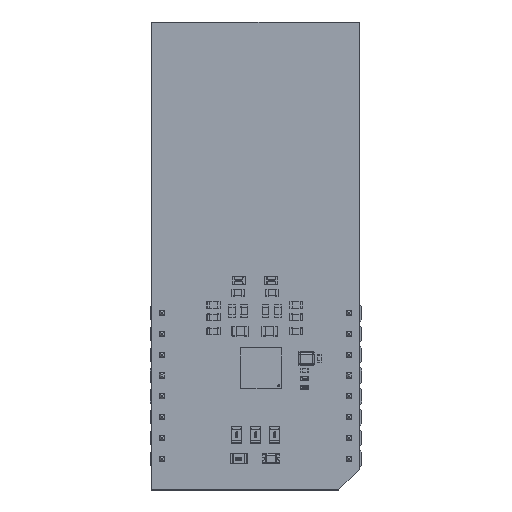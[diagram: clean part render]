
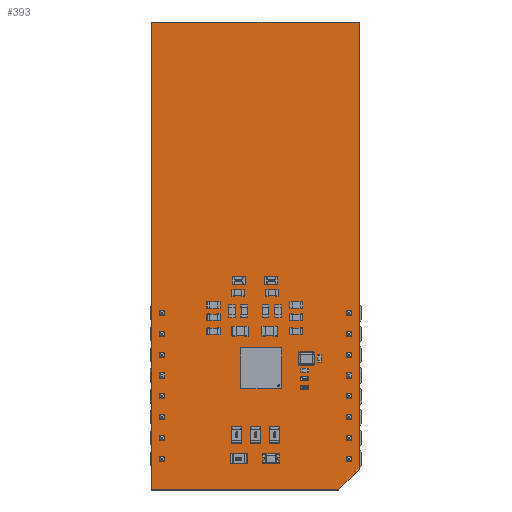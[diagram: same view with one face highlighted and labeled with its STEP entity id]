
A CAD part, top view. The second image highlights one B-rep face of the part: STEP entity #393.
In plain terms, the highlighted planar face has unit normal (0, 0, 1).
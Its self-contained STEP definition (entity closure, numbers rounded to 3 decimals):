
#232 = VERTEX_POINT('',#233);
#233 = CARTESIAN_POINT('',(-1.27,-3.81,1.65));
#239 = EDGE_CURVE('',#232,#240,#242,.T.);
#240 = VERTEX_POINT('',#241);
#241 = CARTESIAN_POINT('',(21.59,-3.81,1.65));
#242 = LINE('',#243,#244);
#243 = CARTESIAN_POINT('',(-1.27,-3.81,1.65));
#244 = VECTOR('',#245,1.);
#245 = DIRECTION('',(1.,0.,0.));
#270 = EDGE_CURVE('',#240,#271,#273,.T.);
#271 = VERTEX_POINT('',#272);
#272 = CARTESIAN_POINT('',(24.13,-1.27,1.65));
#273 = LINE('',#274,#275);
#274 = CARTESIAN_POINT('',(21.59,-3.81,1.65));
#275 = VECTOR('',#276,1.);
#276 = DIRECTION('',(0.707,0.707,0.));
#301 = EDGE_CURVE('',#271,#302,#304,.T.);
#302 = VERTEX_POINT('',#303);
#303 = CARTESIAN_POINT('',(24.13,53.34,1.65));
#304 = LINE('',#305,#306);
#305 = CARTESIAN_POINT('',(24.13,-1.27,1.65));
#306 = VECTOR('',#307,1.);
#307 = DIRECTION('',(0.,1.,0.));
#332 = EDGE_CURVE('',#302,#333,#335,.T.);
#333 = VERTEX_POINT('',#334);
#334 = CARTESIAN_POINT('',(-1.27,53.34,1.65));
#335 = LINE('',#336,#337);
#336 = CARTESIAN_POINT('',(24.13,53.34,1.65));
#337 = VECTOR('',#338,1.);
#338 = DIRECTION('',(-1.,0.,0.));
#363 = EDGE_CURVE('',#333,#232,#364,.T.);
#364 = LINE('',#365,#366);
#365 = CARTESIAN_POINT('',(-1.27,53.34,1.65));
#366 = VECTOR('',#367,1.);
#367 = DIRECTION('',(0.,-1.,0.));
#393 = ADVANCED_FACE('',(#394),#401,.T.);
#394 = FACE_BOUND('',#395,.T.);
#395 = EDGE_LOOP('',(#396,#397,#398,#399,#400));
#396 = ORIENTED_EDGE('',*,*,#239,.T.);
#397 = ORIENTED_EDGE('',*,*,#270,.T.);
#398 = ORIENTED_EDGE('',*,*,#301,.T.);
#399 = ORIENTED_EDGE('',*,*,#332,.T.);
#400 = ORIENTED_EDGE('',*,*,#363,.T.);
#401 = PLANE('',#402);
#402 = AXIS2_PLACEMENT_3D('',#403,#404,#405);
#403 = CARTESIAN_POINT('',(11.306,25.033,1.65));
#404 = DIRECTION('',(0.,0.,1.));
#405 = DIRECTION('',(1.,0.,-0.));
